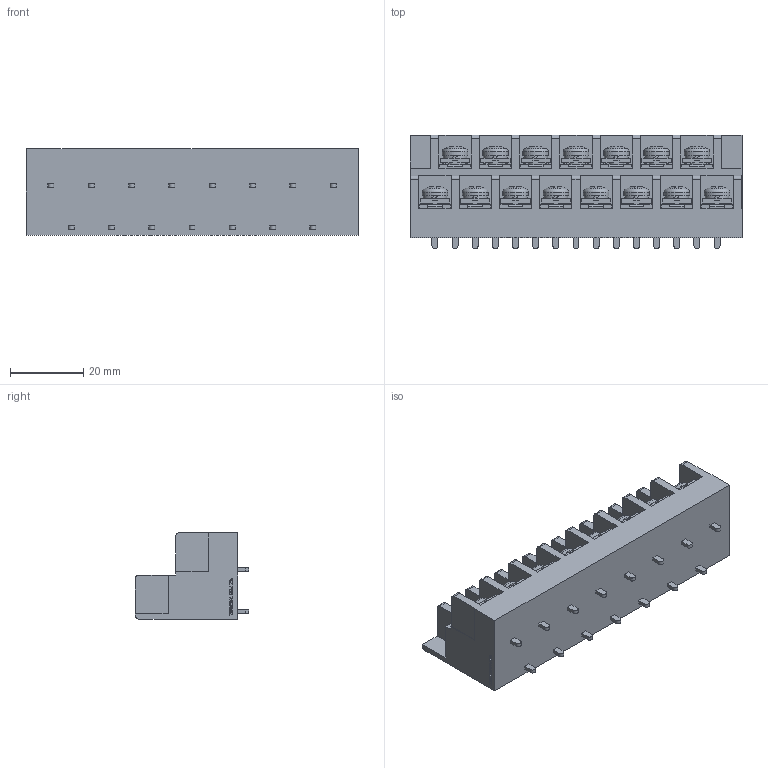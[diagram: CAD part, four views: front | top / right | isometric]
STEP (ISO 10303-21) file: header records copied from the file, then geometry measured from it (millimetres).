
FILE_DESCRIPTION(/* description */ ('Alibre Inc.'),/* implementation_level */ '2;1');
FILE_NAME(/* name */ 'export0',/* time_stamp */ '2016-08-06T14:04:21+09:00',/* author */ (''),/* organization */ (''),/* preprocessor_version */ 'ST-DEVELOPER v14',/* originating_system */ 'Alibre',/* authorisation */ '');
FILE_SCHEMA (('CONFIG_CONTROL_DESIGN'));
Length unit declared in the file: centimetre
Products named in the file (1): ID_1
Bounding box: 90.6 x 31 x 23.5 mm (x, y, z)
Volume: 38234.8 mm3; surface area: 17866.3 mm2
Topology: 1 solids, 129 shells, 3094 faces, 8094 edges, 5331 vertices
Faces by surface type: plane 2398, bspline 468, cylinder 123, cone 60, torus 30, sphere 15
Full cylindrical faces by diameter (mm): 4 x15, 7 x15
Entity records: 90389 total; most frequent: CARTESIAN_POINT 20736, ORIENTED_EDGE 16158, DIRECTION 10144, EDGE_CURVE 8019, VECTOR 6065, LINE 6065, VERTEX_POINT 5316, EDGE_LOOP 3351
